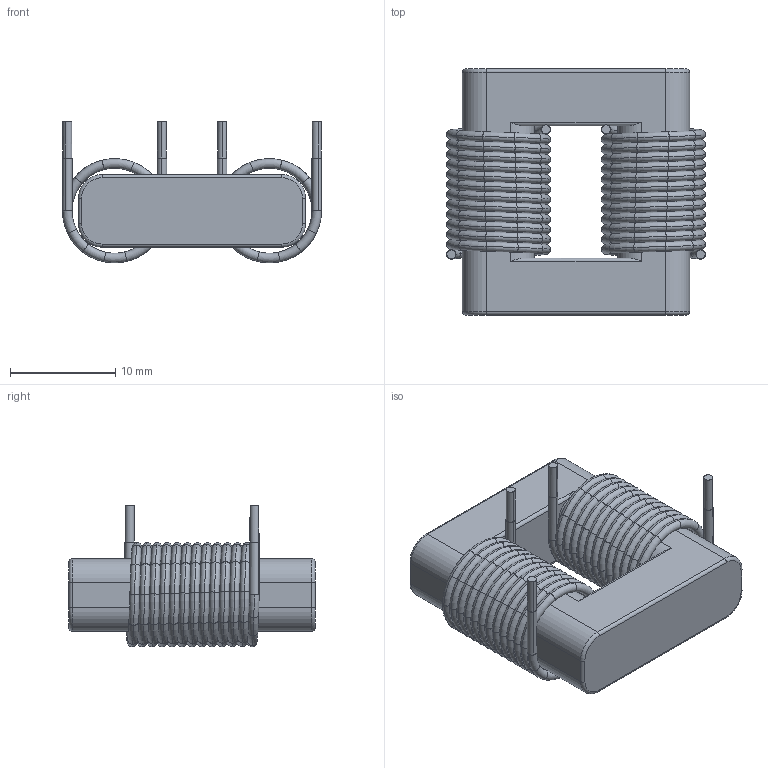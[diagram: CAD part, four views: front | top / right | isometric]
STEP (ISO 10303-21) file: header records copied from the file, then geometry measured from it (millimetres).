
FILE_DESCRIPTION (( 'STEP AP214' ), '1' );
FILE_NAME ('成品线圈3D图-THT-0766-481.STEP', '2025-08-25T08:56:29', ( '微软用户' ), ( '微软中国' ), 'SwSTEP 2.0', 'SolidWorks 2018', '' );
FILE_SCHEMA (( 'AUTOMOTIVE_DESIGN' ));
Length unit declared in the file: millimetre
Products named in the file (1): 成品线圈3D图-THT-0766-481
Bounding box: 24.62 x 23.4 x 13.46 mm (x, y, z)
Volume: 3112 mm3; surface area: 3653.4 mm2
Topology: 3 solids, 3 shells, 566 faces, 1652 edges, 1096 vertices
Faces by surface type: torus 512, cylinder 20, plane 18, bspline 16
Entity records: 26474 total; most frequent: DIRECTION 4290, CARTESIAN_POINT 3751, ORIENTED_EDGE 3304, AXIS2_PLACEMENT_3D 2119, EDGE_CURVE 1652, CIRCLE 1568, VERTEX_POINT 1096, EDGE_LOOP 572
